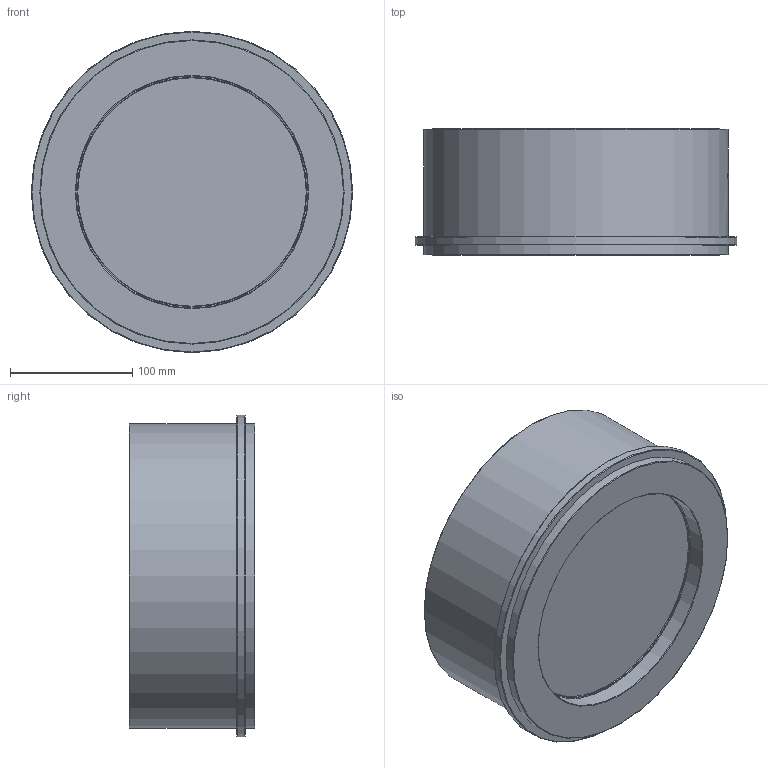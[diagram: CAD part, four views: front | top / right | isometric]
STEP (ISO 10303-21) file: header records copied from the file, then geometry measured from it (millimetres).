
FILE_DESCRIPTION(('STEP AP242'), '1');
FILE_NAME('VCS3232-Fb Êëàïàí îáðàòíûé ïðóæèííûé DN.ru Äó200 Ðó25', '', ('UNSPECIFIED'), ('UNSPECIFIED'), 'C3D Converter', 'C3D Toolkit', '');
FILE_SCHEMA(('AP242_MANAGED_MODEL_BASED_3D_ENGINEERING_MIM_LF { 1 0 10303 442 1 1 4 }'));
Length unit declared in the file: millimetre
Products named in the file (1): VCS3232-Fb
Bounding box: 263 x 103 x 263 mm (x, y, z)
Volume: 1717968.8 mm3; surface area: 348582 mm2
Topology: 1 solids, 1 shells, 137 faces, 365 edges, 246 vertices
Faces by surface type: plane 53, extrusion 40, cylinder 29, torus 10, bspline 3, cone 2
Full cylindrical faces by diameter (mm): 20 x2, 60 x2, 188 x1, 190 x1, 195 x1, 198 x1, 199 x1, 225 x1, 249 x2, 263 x1
Entity records: 10484 total; most frequent: CARTESIAN_POINT 7213, ORIENTED_EDGE 674, DIRECTION 549, EDGE_CURVE 337, VERTEX_POINT 246, AXIS2_PLACEMENT_3D 201, EDGE_LOOP 189, FACE_BOUND 169
